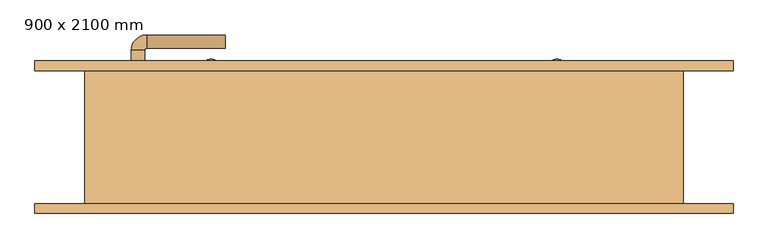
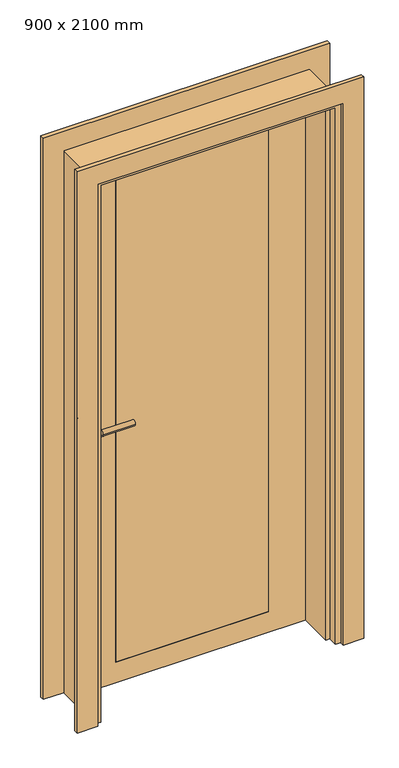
"""IFC4 building model written with IfcOpenShell, lengths in millimetres: door geometry, 单扇平开门-木门 : 900 x 2100 mm."""

from ifc_helpers import new_model, si_unit, point, frame, frame_2d, origin, origin_with_axes, place, context, project, spatial, polyline, circle_curve, ellipse_curve, trimmed, segment, composite_curve, outline, extrude, faceted_brep, source, transform, mapped, element, save
from ifc_brep_helpers import plane_surface, cylinder_surface, revolved_surface, advanced_brep


def door_900_x_2100_mm_dda2772b(model_context):
    return source(origin(), model_context, "Body", "SolidModel", [
        extrude(outline(composite_curve([segment(trimmed(circle_curve(frame_2d((900.0, -370.0)), 25.0), [point((900.0, -345.0))], [point((900.0, -395.0))], False, "CARTESIAN"), True, "CONTINUOUS"), segment(trimmed(circle_curve(frame_2d((900.0, -370.0)), 25.0), [point((900.0, -395.0))], [point((900.0, -345.0))], False, "CARTESIAN"), True, "CONTINUOUS")], self_intersect=False)), frame((0.0, 55.0, 0.0), z_axis=(0.0, 1.0, 0.0), x_axis=(0.0, 0.0, 1.0)), (0.0, 0.0, 1.0), 10.0),
        extrude(outline(composite_curve([segment(trimmed(circle_curve(frame_2d((900.0, -370.0)), 25.0), [point((900.0, -345.0))], [point((900.0, -395.0))], False, "CARTESIAN"), True, "CONTINUOUS"), segment(trimmed(circle_curve(frame_2d((900.0, -370.0)), 25.0), [point((900.0, -395.0))], [point((900.0, -345.0))], False, "CARTESIAN"), True, "CONTINUOUS")], self_intersect=False)), frame((0.0, 100.0, 0.0), z_axis=(0.0, 1.0, 0.0), x_axis=(0.0, 0.0, 1.0)), (0.0, 0.0, 1.0), 10.0),
        advanced_brep(
        [(-380.0, 55.0, 1020.0), (-360.0, 55.0, 1020.0), (-360.0, 34.386645, 1020.0), (-380.0, 34.386645, 1020.0), (-238.419036, 11.419036, 1020.0), (-238.419036, 31.419036, 1020.0), (-357.0323911, 31.419036, 1020.0), (-357.0323911, 11.419036, 1020.0)],
        [
            (0, 1, circle_curve(frame((-370.0, 55.0, 1020.0), z_axis=(0.0, 1.0, 0.0), x_axis=(1.0, 0.0, 0.0)), 10.0)),
            (1, 0, circle_curve(frame((-370.0, 55.0, 1020.0), z_axis=(0.0, 1.0, 0.0), x_axis=(1.0, 0.0, 0.0)), 10.0)),
            (1, 2),
            (2, 3, circle_curve(frame((-370.0, 34.386645, 1020.0), z_axis=(0.0, 1.0, 0.0), x_axis=(1.0, 0.0, 0.0)), 10.0)),
            (3, 0),
            (3, 2, circle_curve(frame((-370.0, 34.386645, 1020.0), z_axis=(0.0, 1.0, 0.0), x_axis=(1.0, 0.0, 0.0)), 10.0)),
            (4, 5, circle_curve(frame((-238.419036, 21.419036, 1020.0), z_axis=(1.0, 0.0, 0.0), x_axis=(0.0, 1.0, 0.0)), 10.0)),
            (5, 4, circle_curve(frame((-238.419036, 21.419036, 1020.0), z_axis=(1.0, 0.0, 0.0), x_axis=(0.0, 1.0, 0.0)), 10.0)),
            (6, 2, circle_curve(frame((-357.0323911, 34.386645, 1020.0), z_axis=(0.0, 0.0, -1.0), x_axis=(-1.0, 0.0, 0.0)), 2.9676089)),
            (3, 7, circle_curve(frame((-357.0323911, 34.386645, 1020.0), z_axis=(0.0, 0.0, 1.0), x_axis=(-1.0, 0.0, 0.0)), 22.9676089)),
            (7, 6, circle_curve(frame((-357.0323911, 21.419036, 1020.0), z_axis=(-1.0, 0.0, 0.0), x_axis=(0.0, 1.0, 0.0)), 10.0)),
            (6, 7, circle_curve(frame((-357.0323911, 21.419036, 1020.0), z_axis=(-1.0, 0.0, 0.0), x_axis=(0.0, 1.0, 0.0)), 10.0)),
            (7, 4),
            (5, 6),
        ],
        [
            plane_surface(frame((-370.0, 55.0, 900.0), z_axis=(0.0, 1.0, 0.0), x_axis=(0.0, 0.0, 1.0))),
            cylinder_surface(frame((-370.0, 55.0, 1020.0), z_axis=(0.0, 1.0, 0.0), x_axis=(1.0, 0.0, 0.0)), 10.0),
            plane_surface(frame((-238.419036, 21.419036, 900.0), z_axis=(1.0, 0.0, 0.0), x_axis=(0.0, 0.0, 1.0))),
            revolved_surface(trimmed(ellipse_curve(frame((-370.0, 34.386645, 1020.0), z_axis=(0.0, 1.0, 0.0), x_axis=(1.0, 0.0, 0.0)), 10.0, 10.0), [point((-380.0, 34.386645, 1020.0))], [point((-360.0, 34.386645, 1020.0))], True, "CARTESIAN"), (-357.0323911, 34.386645, 900.0), (0.0, 0.0, 1.0)),
            revolved_surface(trimmed(ellipse_curve(frame((-370.0, 34.386645, 1020.0), z_axis=(0.0, 1.0, 0.0), x_axis=(1.0, 0.0, 0.0)), 10.0, 10.0), [point((-360.0, 34.386645, 1020.0))], [point((-380.0, 34.386645, 1020.0))], True, "CARTESIAN"), (-357.0323911, 34.386645, 900.0), (0.0, 0.0, 1.0)),
            cylinder_surface(frame((-357.0323911, 21.419036, 1020.0), z_axis=(-1.0, 0.0, 0.0), x_axis=(0.0, 1.0, 0.0)), 10.0),
        ],
        [
            (0, [[1, 2]]),
            (1, [[-2, 3, 4, 5]]),
            (1, [[-1, -5, 6, -3]]),
            (2, [[7, 8]]),
            (3, [[9, -6, 10, 11]]),
            (4, [[-10, -4, -9, 12]]),
            (5, [[-11, 13, -8, 14]]),
            (5, [[-12, -14, -7, -13]]),
        ],
    ),
        extrude(outline(composite_curve([segment(trimmed(circle_curve(frame_2d((1020.0, -370.0)), 25.0), [point((1020.0, -345.0))], [point((1020.0, -395.0))], False, "CARTESIAN"), True, "CONTINUOUS"), segment(trimmed(circle_curve(frame_2d((1020.0, -370.0)), 25.0), [point((1020.0, -395.0))], [point((1020.0, -345.0))], False, "CARTESIAN"), True, "CONTINUOUS")], self_intersect=False)), frame((0.0, 55.0, 0.0), z_axis=(0.0, 1.0, 0.0), x_axis=(0.0, 0.0, 1.0)), (0.0, 0.0, 1.0), 10.0),
        advanced_brep(
        [(-360.0, 110.0, 1020.0), (-380.0, 110.0, 1020.0), (-360.0, 130.6133551, 1020.0), (-380.0, 130.6133551, 1020.0), (-238.419036, 133.580964, 1020.0), (-238.419036, 153.580964, 1020.0), (-357.0323911, 153.580964, 1020.0), (-357.0323911, 133.580964, 1020.0)],
        [
            (0, 1, circle_curve(frame((-370.0, 110.0, 1020.0), z_axis=(0.0, -1.0, 0.0), x_axis=(-1.0, 0.0, 0.0)), 10.0)),
            (1, 0, circle_curve(frame((-370.0, 110.0, 1020.0), z_axis=(0.0, -1.0, 0.0), x_axis=(-1.0, 0.0, 0.0)), 10.0)),
            (0, 2),
            (2, 3, circle_curve(frame((-370.0, 130.6133551, 1020.0), z_axis=(0.0, -1.0, 0.0), x_axis=(-1.0, 0.0, 0.0)), 10.0)),
            (3, 1),
            (3, 2, circle_curve(frame((-370.0, 130.6133551, 1020.0), z_axis=(0.0, -1.0, 0.0), x_axis=(-1.0, 0.0, 0.0)), 10.0)),
            (4, 5, circle_curve(frame((-238.419036, 143.580964, 1020.0), z_axis=(1.0, 0.0, 0.0), x_axis=(0.0, 1.0, 0.0)), 10.0)),
            (5, 4, circle_curve(frame((-238.419036, 143.580964, 1020.0), z_axis=(1.0, 0.0, 0.0), x_axis=(0.0, 1.0, 0.0)), 10.0)),
            (6, 3, circle_curve(frame((-357.0323911, 130.6133551, 1020.0), z_axis=(0.0, 0.0, 1.0), x_axis=(-1.0, 0.0, 0.0)), 22.9676089)),
            (2, 7, circle_curve(frame((-357.0323911, 130.6133551, 1020.0), z_axis=(0.0, 0.0, -1.0), x_axis=(-1.0, 0.0, 0.0)), 2.9676089)),
            (7, 6, circle_curve(frame((-357.0323911, 143.580964, 1020.0), z_axis=(-1.0, 0.0, 0.0), x_axis=(0.0, 1.0, 0.0)), 10.0)),
            (6, 7, circle_curve(frame((-357.0323911, 143.580964, 1020.0), z_axis=(-1.0, 0.0, 0.0), x_axis=(0.0, 1.0, 0.0)), 10.0)),
            (7, 4),
            (5, 6),
        ],
        [
            plane_surface(frame((-370.0, 110.0, 900.0), z_axis=(0.0, -1.0, 0.0), x_axis=(0.0, 0.0, 1.0))),
            cylinder_surface(frame((-370.0, 110.0, 1020.0), z_axis=(0.0, -1.0, 0.0), x_axis=(-1.0, 0.0, 0.0)), 10.0),
            plane_surface(frame((-238.419036, 143.580964, 900.0), z_axis=(1.0, 0.0, 0.0), x_axis=(0.0, 0.0, 1.0))),
            revolved_surface(trimmed(ellipse_curve(frame((-370.0, 130.6133551, 1020.0), z_axis=(0.0, -1.0, 0.0), x_axis=(-1.0, 0.0, 0.0)), 10.0, 10.0), [point((-360.0, 130.6133551, 1020.0))], [point((-380.0, 130.6133551, 1020.0))], True, "CARTESIAN"), (-357.0323911, 130.6133551, 900.0), (0.0, 0.0, -1.0)),
            revolved_surface(trimmed(ellipse_curve(frame((-370.0, 130.6133551, 1020.0), z_axis=(0.0, -1.0, 0.0), x_axis=(-1.0, 0.0, 0.0)), 10.0, 10.0), [point((-380.0, 130.6133551, 1020.0))], [point((-360.0, 130.6133551, 1020.0))], True, "CARTESIAN"), (-357.0323911, 130.6133551, 900.0), (0.0, 0.0, -1.0)),
            cylinder_surface(frame((-357.0323911, 143.580964, 1020.0), z_axis=(-1.0, 0.0, 0.0), x_axis=(0.0, 1.0, 0.0)), 10.0),
        ],
        [
            (0, [[1, 2]]),
            (1, [[-1, 3, 4, 5]]),
            (1, [[-2, -5, 6, -3]]),
            (2, [[7, 8]]),
            (3, [[9, -4, 10, 11]]),
            (4, [[-10, -6, -9, 12]]),
            (5, [[-11, 13, -8, 14]]),
            (5, [[-12, -14, -7, -13]]),
        ],
    ),
        extrude(outline(composite_curve([segment(trimmed(circle_curve(frame_2d((1020.0, -370.0)), 25.0), [point((1020.0, -345.0))], [point((1020.0, -395.0))], False, "CARTESIAN"), True, "CONTINUOUS"), segment(trimmed(circle_curve(frame_2d((1020.0, -370.0)), 25.0), [point((1020.0, -395.0))], [point((1020.0, -345.0))], False, "CARTESIAN"), True, "CONTINUOUS")], self_intersect=False)), frame((0.0, 100.0, 0.0), z_axis=(0.0, 1.0, 0.0), x_axis=(0.0, 0.0, 1.0)), (0.0, 0.0, 1.0), 10.0),
        extrude(outline(polyline([(2100.0, -450.0), (2100.0, 450.0), (0.0, 450.0), (0.0, 525.0), (2175.0, 525.0), (2175.0, -525.0), (0.0, -525.0), (0.0, -450.0), (2100.0, -450.0)])), frame((0.0, 100.0, 0.0), z_axis=(0.0, 1.0, 0.0), x_axis=(0.0, 0.0, 1.0)), (0.0, 0.0, 1.0), 15.0),
        extrude(outline(polyline([(2175.0, -525.0), (0.0, -525.0), (0.0, -450.0), (2100.0, -450.0), (2100.0, 450.0), (0.0, 450.0), (0.0, 525.0), (2175.0, 525.0), (2175.0, -525.0)])), frame((0.0, -115.0, 0.0), z_axis=(0.0, 1.0, 0.0), x_axis=(0.0, 0.0, 1.0)), (0.0, 0.0, 1.0), 15.0),
        extrude(outline(polyline([(2080.0, 430.0), (2080.0, -430.0), (0.0, -430.0), (0.0, 430.0), (2080.0, 430.0)]), holes=[polyline([(2060.0, 280.0), (80.0, 280.0), (80.0, -280.0), (2060.0, -280.0), (2060.0, 280.0)])]), frame((0.0, 65.0, 0.0), z_axis=(0.0, 1.0, 0.0), x_axis=(0.0, 0.0, 1.0)), (0.0, 0.0, 1.0), 35.0),
        extrude(outline(composite_curve([segment(polyline([(-280.0, 100.0), (-280.0, 101.0)]), True, "CONTINUOUS"), segment(trimmed(circle_curve(frame_2d((-273.0, 101.0)), 7.0), [point((-280.0, 101.0))], [point((-273.0, 108.0))], False, "CARTESIAN"), True, "CONTINUOUS"), segment(trimmed(circle_curve(frame_2d((-260.0, 103.3201295)), 13.8166996), [point((-273.0, 108.0))], [point((-247.0, 108.0))], False, "CARTESIAN"), True, "CONTINUOUS"), segment(trimmed(circle_curve(frame_2d((-247.0, 101.0)), 7.0), [point((-247.0, 108.0))], [point((-240.0, 101.0))], False, "CARTESIAN"), True, "CONTINUOUS"), segment(polyline([(-240.0, 101.0), (-240.0, 100.0), (-280.0, 100.0)]), True, "CONTINUOUS")], self_intersect=False)), origin_with_axes(), (0.0, 0.0, 1.0), 2080.0),
        extrude(outline(composite_curve([segment(polyline([(280.0, 100.0), (240.0, 100.0), (240.0, 101.0)]), True, "CONTINUOUS"), segment(trimmed(circle_curve(frame_2d((247.0, 101.0)), 7.0), [point((240.0, 101.0))], [point((247.0, 108.0))], False, "CARTESIAN"), True, "CONTINUOUS"), segment(trimmed(circle_curve(frame_2d((260.0, 103.3201295)), 13.8166996), [point((247.0, 108.0))], [point((273.0, 108.0))], False, "CARTESIAN"), True, "CONTINUOUS"), segment(trimmed(circle_curve(frame_2d((273.0, 101.0)), 7.0), [point((273.0, 108.0))], [point((280.0, 101.0))], False, "CARTESIAN"), True, "CONTINUOUS"), segment(polyline([(280.0, 101.0), (280.0, 100.0)]), True, "CONTINUOUS")], self_intersect=False)), origin_with_axes(), (0.0, 0.0, 1.0), 2080.0),
        extrude(outline(polyline([(280.0, 100.0), (280.0, 65.0), (-280.0, 65.0), (-280.0, 100.0), (280.0, 100.0)])), frame((0.0, 0.0, 80.0), z_axis=(0.0, 0.0, 1.0), x_axis=(1.0, 0.0, 0.0)), (0.0, 0.0, 1.0), 1980.0),
        faceted_brep([(450.0, 100.0, 0.0), (450.0, -100.0, 0.0), (430.0, -100.0, 0.0), (430.0, -65.0, 0.0), (415.0, -65.0, 0.0), (415.0, 65.0, 0.0), (430.0, 65.0, 0.0), (430.0, 100.0, 0.0), (450.0, 100.0, 2100.0), (450.0, -100.0, 2100.0), (-450.0, -100.0, 2100.0), (-450.0, -100.0, 0.0), (-430.0, -100.0, 0.0), (-430.0, -100.0, 2080.0), (430.0, -100.0, 2080.0), (430.0, -65.0, 2080.0), (-430.0, -65.0, 2080.0), (-430.0, -65.0, 0.0), (-415.0, -65.0, 0.0), (-415.0, -65.0, 2065.0), (415.0, -65.0, 2065.0), (415.0, 65.0, 2065.0), (-415.0, 65.0, 2065.0), (-415.0, 65.0, 0.0), (-430.0, 65.0, 0.0), (-430.0, 65.0, 2080.0), (430.0, 65.0, 2080.0), (430.0, 100.0, 2080.0), (-430.0, 100.0, 2080.0), (-430.0, 100.0, 0.0), (-450.0, 100.0, 0.0), (-450.0, 100.0, 2100.0)], [[[0, 1, 2, 3, 4, 5, 6, 7]], [[1, 0, 8, 9]], [[2, 1, 9, 10, 11, 12, 13, 14]], [[3, 2, 14, 15]], [[4, 3, 15, 16, 17, 18, 19, 20]], [[5, 4, 20, 21]], [[6, 5, 21, 22, 23, 24, 25, 26]], [[7, 6, 26, 27]], [[0, 7, 27, 28, 29, 30, 31, 8]], [[9, 8, 31, 10]], [[15, 14, 13, 16]], [[21, 20, 19, 22]], [[27, 26, 25, 28]], [[30, 29, 24, 23, 18, 17, 12, 11]], [[10, 31, 30, 11]], [[16, 13, 12, 17]], [[22, 19, 18, 23]], [[28, 25, 24, 29]]]),
    ])


if __name__ == "__main__":
    model = new_model("IFC4")
    model_context = context("Model", 3, world=origin())
    ifc_project = project(units=[si_unit("LENGTHUNIT", "METRE", prefix="MILLI")], contexts=[model_context])
    site = spatial("IfcSite", under=ifc_project)
    building = spatial("IfcBuilding", under=site)
    placement = place(None, origin())
    door_900_x_2100_mm_shape = door_900_x_2100_mm_dda2772b(model_context)
    element("IfcDoor", 1, ObjectType="单扇平开门-木门 : 900 x 2100 mm", at=placement, inside=building, context=model_context, shape_type="MappedRepresentation", body=[
        mapped(door_900_x_2100_mm_shape, transform((0.0, 0.0, 0.0), x_axis=(1.0, 0.0, 0.0), y_axis=(0.0, 1.0, 0.0), z_axis=(0.0, 0.0, 1.0))),
    ])
    save(model, "model.ifc")
